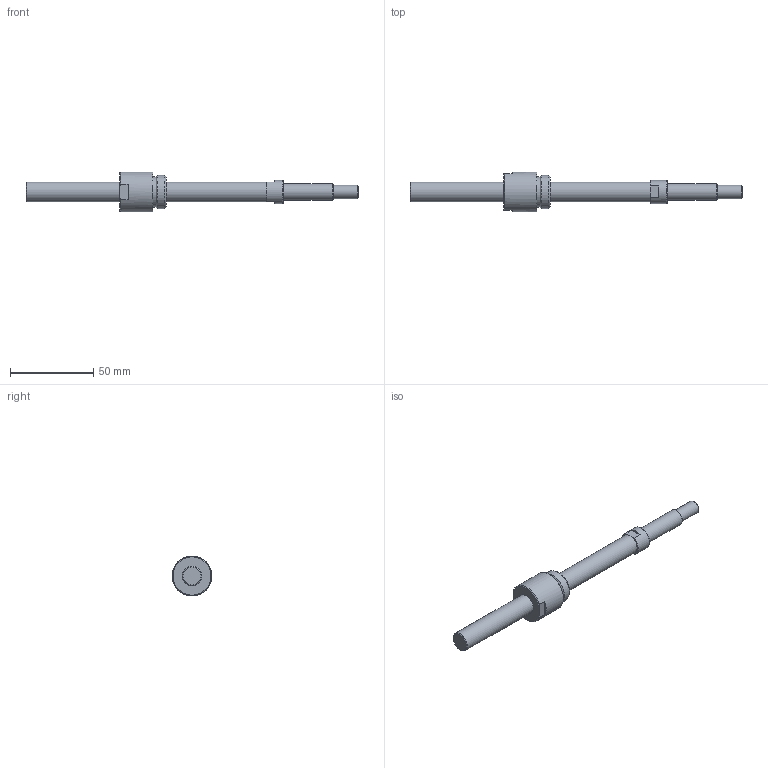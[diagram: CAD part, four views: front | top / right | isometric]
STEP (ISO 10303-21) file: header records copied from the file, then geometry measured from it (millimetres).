
FILE_DESCRIPTION(/* description */ ('STEP AP214'),/* implementation_level */ '2;1');
FILE_NAME(/* name */ 'NSG1202-141R200C5A0X(56.5)',/* time_stamp */ '2026-08-20T15:49:48+02:00',/* author */ ('License CC BY-ND 4.0'),/* organization */ ('CADENAS'),/* preprocessor_version */ 'ST-DEVELOPER v20',/* originating_system */ 'PARTsolutions',/* authorisation */ ' ');
FILE_SCHEMA (('AUTOMOTIVE_DESIGN {1 0 10303 214 3 1 1}'));
Length unit declared in the file: millimetre
Products named in the file (3): NSG1202-141R200C5A0X(56.5); NSG1202-141R200C3A_shaft; NSG1202_nut
Assembly tree (2 placements, depth 2):
  NSG1202-141R200C5A0X(56.5)
    NSG1202-141R200C3A_shaft
    NSG1202_nut
Bounding box: 200 x 24 x 24 mm (x, y, z)
Volume: 29169.4 mm3; surface area: 11223.8 mm2
Topology: 2 solids, 2 shells, 35 faces, 72 edges, 44 vertices
Faces by surface type: plane 17, cone 9, cylinder 8, torus 1
Full cylindrical faces by diameter (mm): 8 x1, 10 x1, 12 x2, 14 x1, 18.4 x1, 20 x1, 24 x1
Entity records: 907 total; most frequent: DIRECTION 158, CARTESIAN_POINT 146, ORIENTED_EDGE 108, AXIS2_PLACEMENT_3D 70, EDGE_LOOP 56, FACE_BOUND 56, EDGE_CURVE 54, VERTEX_POINT 42
